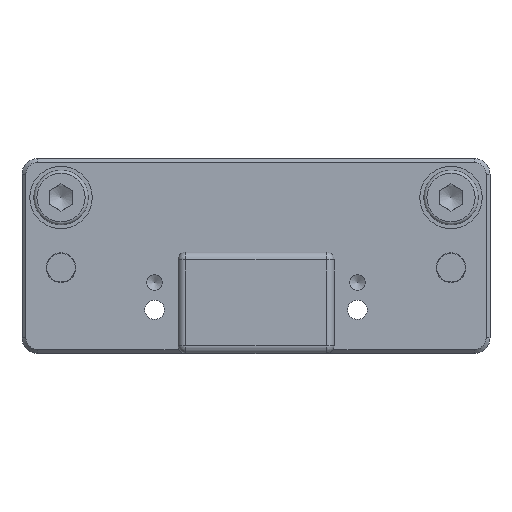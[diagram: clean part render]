
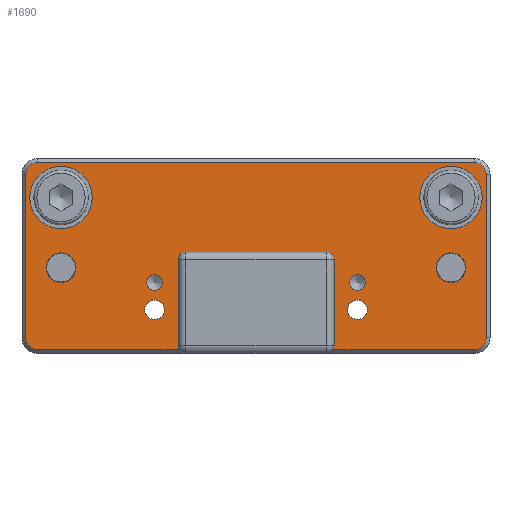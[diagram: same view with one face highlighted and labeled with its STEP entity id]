
A CAD part, front view. The second image highlights one B-rep face of the part: STEP entity #1690.
In plain terms, the highlighted planar face has unit normal (0, -1, 0).
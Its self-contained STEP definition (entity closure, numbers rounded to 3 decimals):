
#92=LINE('',#2637,#205);
#95=LINE('',#2648,#208);
#100=LINE('',#2661,#213);
#104=LINE('',#2673,#217);
#106=LINE('',#2684,#219);
#156=LINE('',#2862,#269);
#157=LINE('',#2864,#270);
#164=LINE('',#2893,#277);
#205=VECTOR('',#2109,10.);
#208=VECTOR('',#2120,10.);
#213=VECTOR('',#2133,10.);
#217=VECTOR('',#2145,10.);
#219=VECTOR('',#2157,10.);
#269=VECTOR('',#2363,10.);
#270=VECTOR('',#2366,10.);
#277=VECTOR('',#2405,10.);
#326=FACE_BOUND('',#550,.T.);
#327=FACE_BOUND('',#551,.T.);
#328=FACE_BOUND('',#552,.T.);
#329=FACE_BOUND('',#553,.T.);
#330=FACE_BOUND('',#554,.T.);
#331=FACE_BOUND('',#555,.T.);
#332=FACE_BOUND('',#556,.T.);
#333=FACE_BOUND('',#557,.T.);
#434=FACE_OUTER_BOUND('',#549,.T.);
#549=EDGE_LOOP('',(#1419,#1420,#1421,#1422,#1423,#1424,#1425,#1426,#1427,
#1428,#1429,#1430,#1431,#1432,#1433,#1434));
#550=EDGE_LOOP('',(#1435));
#551=EDGE_LOOP('',(#1436));
#552=EDGE_LOOP('',(#1437));
#553=EDGE_LOOP('',(#1438));
#554=EDGE_LOOP('',(#1439));
#555=EDGE_LOOP('',(#1440));
#556=EDGE_LOOP('',(#1441));
#557=EDGE_LOOP('',(#1442));
#597=CIRCLE('',#1796,1.5);
#599=CIRCLE('',#1800,1.5);
#601=CIRCLE('',#1804,1.5);
#603=CIRCLE('',#1808,1.5);
#609=CIRCLE('',#1826,1.);
#611=CIRCLE('',#1830,1.);
#614=CIRCLE('',#1836,1.9);
#617=CIRCLE('',#1842,1.9);
#632=CIRCLE('',#1869,1.);
#636=CIRCLE('',#1876,1.);
#640=CIRCLE('',#1882,1.);
#641=CIRCLE('',#1887,1.);
#642=CIRCLE('',#1892,1.25);
#643=CIRCLE('',#1894,1.25);
#645=CIRCLE('',#1898,4.);
#647=CIRCLE('',#1903,4.);
#710=VERTEX_POINT('',#2630);
#713=VERTEX_POINT('',#2635);
#715=VERTEX_POINT('',#2641);
#717=VERTEX_POINT('',#2646);
#719=VERTEX_POINT('',#2653);
#721=VERTEX_POINT('',#2659);
#723=VERTEX_POINT('',#2665);
#725=VERTEX_POINT('',#2671);
#727=VERTEX_POINT('',#2677);
#729=VERTEX_POINT('',#2682);
#742=VERTEX_POINT('',#2729);
#745=VERTEX_POINT('',#2738);
#748=VERTEX_POINT('',#2749);
#751=VERTEX_POINT('',#2760);
#768=VERTEX_POINT('',#2817);
#772=VERTEX_POINT('',#2830);
#773=VERTEX_POINT('',#2831);
#777=VERTEX_POINT('',#2843);
#778=VERTEX_POINT('',#2844);
#779=VERTEX_POINT('',#2858);
#780=VERTEX_POINT('',#2867);
#781=VERTEX_POINT('',#2871);
#783=VERTEX_POINT('',#2878);
#785=VERTEX_POINT('',#2887);
#879=EDGE_CURVE('',#713,#710,#92,.T.);
#882=EDGE_CURVE('',#715,#713,#597,.T.);
#884=EDGE_CURVE('',#717,#715,#95,.T.);
#888=EDGE_CURVE('',#719,#717,#599,.T.);
#891=EDGE_CURVE('',#721,#719,#100,.T.);
#894=EDGE_CURVE('',#723,#721,#601,.T.);
#897=EDGE_CURVE('',#725,#723,#104,.T.);
#900=EDGE_CURVE('',#727,#725,#603,.T.);
#902=EDGE_CURVE('',#729,#727,#106,.T.);
#925=EDGE_CURVE('',#742,#742,#609,.T.);
#929=EDGE_CURVE('',#745,#745,#611,.T.);
#935=EDGE_CURVE('',#748,#748,#614,.T.);
#940=EDGE_CURVE('',#751,#751,#617,.T.);
#967=EDGE_CURVE('',#768,#729,#632,.F.);
#973=EDGE_CURVE('',#772,#773,#636,.F.);
#979=EDGE_CURVE('',#777,#778,#640,.F.);
#988=EDGE_CURVE('',#710,#779,#641,.F.);
#990=EDGE_CURVE('',#777,#773,#156,.T.);
#991=EDGE_CURVE('',#779,#772,#157,.T.);
#992=EDGE_CURVE('',#780,#780,#642,.T.);
#994=EDGE_CURVE('',#781,#781,#643,.T.);
#997=EDGE_CURVE('',#783,#783,#645,.T.);
#1001=EDGE_CURVE('',#785,#785,#647,.T.);
#1004=EDGE_CURVE('',#768,#778,#164,.T.);
#1419=ORIENTED_EDGE('',*,*,#902,.F.);
#1420=ORIENTED_EDGE('',*,*,#967,.F.);
#1421=ORIENTED_EDGE('',*,*,#1004,.T.);
#1422=ORIENTED_EDGE('',*,*,#979,.F.);
#1423=ORIENTED_EDGE('',*,*,#990,.T.);
#1424=ORIENTED_EDGE('',*,*,#973,.F.);
#1425=ORIENTED_EDGE('',*,*,#991,.F.);
#1426=ORIENTED_EDGE('',*,*,#988,.F.);
#1427=ORIENTED_EDGE('',*,*,#879,.F.);
#1428=ORIENTED_EDGE('',*,*,#882,.F.);
#1429=ORIENTED_EDGE('',*,*,#884,.F.);
#1430=ORIENTED_EDGE('',*,*,#888,.F.);
#1431=ORIENTED_EDGE('',*,*,#891,.F.);
#1432=ORIENTED_EDGE('',*,*,#894,.F.);
#1433=ORIENTED_EDGE('',*,*,#897,.F.);
#1434=ORIENTED_EDGE('',*,*,#900,.F.);
#1435=ORIENTED_EDGE('',*,*,#925,.T.);
#1436=ORIENTED_EDGE('',*,*,#929,.T.);
#1437=ORIENTED_EDGE('',*,*,#935,.T.);
#1438=ORIENTED_EDGE('',*,*,#940,.T.);
#1439=ORIENTED_EDGE('',*,*,#992,.T.);
#1440=ORIENTED_EDGE('',*,*,#994,.T.);
#1441=ORIENTED_EDGE('',*,*,#997,.T.);
#1442=ORIENTED_EDGE('',*,*,#1001,.T.);
#1487=PLANE('',#1906);
#1690=ADVANCED_FACE('',(#434,#326,#327,#328,#329,#330,#331,#332,#333),#1487,
 .T.);
#1796=AXIS2_PLACEMENT_3D('',#2643,#2115,#2116);
#1800=AXIS2_PLACEMENT_3D('',#2655,#2127,#2128);
#1804=AXIS2_PLACEMENT_3D('',#2667,#2139,#2140);
#1808=AXIS2_PLACEMENT_3D('',#2679,#2151,#2152);
#1826=AXIS2_PLACEMENT_3D('',#2730,#2205,#2206);
#1830=AXIS2_PLACEMENT_3D('',#2739,#2215,#2216);
#1836=AXIS2_PLACEMENT_3D('',#2751,#2230,#2231);
#1842=AXIS2_PLACEMENT_3D('',#2762,#2244,#2245);
#1869=AXIS2_PLACEMENT_3D('',#2818,#2310,#2311);
#1876=AXIS2_PLACEMENT_3D('',#2832,#2326,#2327);
#1882=AXIS2_PLACEMENT_3D('',#2845,#2340,#2341);
#1887=AXIS2_PLACEMENT_3D('',#2859,#2358,#2359);
#1892=AXIS2_PLACEMENT_3D('',#2868,#2371,#2372);
#1894=AXIS2_PLACEMENT_3D('',#2872,#2376,#2377);
#1898=AXIS2_PLACEMENT_3D('',#2879,#2385,#2386);
#1903=AXIS2_PLACEMENT_3D('',#2888,#2397,#2398);
#1906=AXIS2_PLACEMENT_3D('',#2894,#2406,#2407);
#2109=DIRECTION('',(-1.,0.,0.));
#2115=DIRECTION('center_axis',(0.,1.,0.));
#2116=DIRECTION('ref_axis',(0.707,0.,-0.707));
#2120=DIRECTION('',(0.,0.,-1.));
#2127=DIRECTION('center_axis',(0.,1.,0.));
#2128=DIRECTION('ref_axis',(0.707,0.,0.707));
#2133=DIRECTION('',(1.,0.,0.));
#2139=DIRECTION('center_axis',(0.,1.,0.));
#2140=DIRECTION('ref_axis',(-0.707,0.,0.707));
#2145=DIRECTION('',(0.,0.,1.));
#2151=DIRECTION('center_axis',(0.,1.,0.));
#2152=DIRECTION('ref_axis',(-0.707,0.,-0.707));
#2157=DIRECTION('',(-1.,0.,0.));
#2205=DIRECTION('center_axis',(0.,1.,0.));
#2206=DIRECTION('ref_axis',(1.,0.,0.));
#2215=DIRECTION('center_axis',(0.,1.,0.));
#2216=DIRECTION('ref_axis',(1.,0.,0.));
#2230=DIRECTION('center_axis',(0.,1.,0.));
#2231=DIRECTION('ref_axis',(1.,0.,0.));
#2244=DIRECTION('center_axis',(0.,1.,0.));
#2245=DIRECTION('ref_axis',(1.,0.,0.));
#2310=DIRECTION('center_axis',(0.,1.,0.));
#2311=DIRECTION('ref_axis',(-0.707,0.,-0.707));
#2326=DIRECTION('center_axis',(0.,1.,0.));
#2327=DIRECTION('ref_axis',(0.707,0.,0.707));
#2340=DIRECTION('center_axis',(0.,1.,0.));
#2341=DIRECTION('ref_axis',(-0.707,0.,0.707));
#2358=DIRECTION('center_axis',(0.,1.,0.));
#2359=DIRECTION('ref_axis',(0.707,0.,-0.707));
#2363=DIRECTION('',(1.,0.,0.));
#2366=DIRECTION('',(0.,0.,1.));
#2371=DIRECTION('center_axis',(0.,1.,0.));
#2372=DIRECTION('ref_axis',(1.,0.,0.));
#2376=DIRECTION('center_axis',(0.,1.,0.));
#2377=DIRECTION('ref_axis',(1.,0.,0.));
#2385=DIRECTION('center_axis',(0.,1.,0.));
#2386=DIRECTION('ref_axis',(1.,0.,0.));
#2397=DIRECTION('center_axis',(0.,1.,0.));
#2398=DIRECTION('ref_axis',(1.,0.,0.));
#2405=DIRECTION('',(0.,0.,1.));
#2406=DIRECTION('center_axis',(0.,-1.,0.));
#2407=DIRECTION('ref_axis',(1.,0.,0.));
#2630=CARTESIAN_POINT('',(9.866,-7.,0.5));
#2635=CARTESIAN_POINT('',(28.,-7.,0.5));
#2637=CARTESIAN_POINT('',(-15.,-7.,0.5));
#2641=CARTESIAN_POINT('',(29.5,-7.,2.));
#2643=CARTESIAN_POINT('Origin',(28.,-7.,2.));
#2646=CARTESIAN_POINT('',(29.5,-7.,23.));
#2648=CARTESIAN_POINT('',(29.5,-7.,0.));
#2653=CARTESIAN_POINT('',(28.,-7.,24.5));
#2655=CARTESIAN_POINT('Origin',(28.,-7.,23.));
#2659=CARTESIAN_POINT('',(-28.,-7.,24.5));
#2661=CARTESIAN_POINT('',(-15.,-7.,24.5));
#2665=CARTESIAN_POINT('',(-29.5,-7.,23.));
#2667=CARTESIAN_POINT('Origin',(-28.,-7.,23.));
#2671=CARTESIAN_POINT('',(-29.5,-7.,2.));
#2673=CARTESIAN_POINT('',(-29.5,-7.,0.));
#2677=CARTESIAN_POINT('',(-28.,-7.,0.5));
#2679=CARTESIAN_POINT('Origin',(-28.,-7.,2.));
#2682=CARTESIAN_POINT('',(-9.866,-7.,0.5));
#2684=CARTESIAN_POINT('',(-15.,-7.,0.5));
#2729=CARTESIAN_POINT('',(12.,-7.,9.1));
#2730=CARTESIAN_POINT('Origin',(13.,-7.,9.1));
#2738=CARTESIAN_POINT('',(-14.,-7.,9.1));
#2739=CARTESIAN_POINT('Origin',(-13.,-7.,9.1));
#2749=CARTESIAN_POINT('',(23.1,-7.,11.));
#2751=CARTESIAN_POINT('Origin',(25.,-7.,11.));
#2760=CARTESIAN_POINT('',(-26.9,-7.,11.));
#2762=CARTESIAN_POINT('Origin',(-25.,-7.,11.));
#2817=CARTESIAN_POINT('',(-10.,-7.,1.));
#2818=CARTESIAN_POINT('Origin',(-9.,-7.,1.));
#2830=CARTESIAN_POINT('',(10.,-7.,12.));
#2831=CARTESIAN_POINT('',(9.,-7.,13.));
#2832=CARTESIAN_POINT('Origin',(9.,-7.,12.));
#2843=CARTESIAN_POINT('',(-9.,-7.,13.));
#2844=CARTESIAN_POINT('',(-10.,-7.,12.));
#2845=CARTESIAN_POINT('Origin',(-9.,-7.,12.));
#2858=CARTESIAN_POINT('',(10.,-7.,1.));
#2859=CARTESIAN_POINT('Origin',(9.,-7.,1.));
#2862=CARTESIAN_POINT('',(-10.,-7.,13.));
#2864=CARTESIAN_POINT('',(10.,-7.,0.));
#2867=CARTESIAN_POINT('',(11.75,-7.,5.6));
#2868=CARTESIAN_POINT('Origin',(13.,-7.,5.6));
#2871=CARTESIAN_POINT('',(-14.25,-7.,5.6));
#2872=CARTESIAN_POINT('Origin',(-13.,-7.,5.6));
#2878=CARTESIAN_POINT('',(-29.,-7.,20.));
#2879=CARTESIAN_POINT('Origin',(-25.,-7.,20.));
#2887=CARTESIAN_POINT('',(21.,-7.,20.));
#2888=CARTESIAN_POINT('Origin',(25.,-7.,20.));
#2893=CARTESIAN_POINT('',(-10.,-7.,0.));
#2894=CARTESIAN_POINT('Origin',(-30.,-7.,0.));
